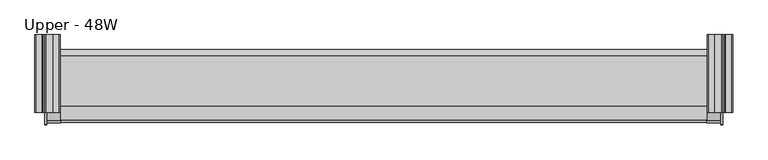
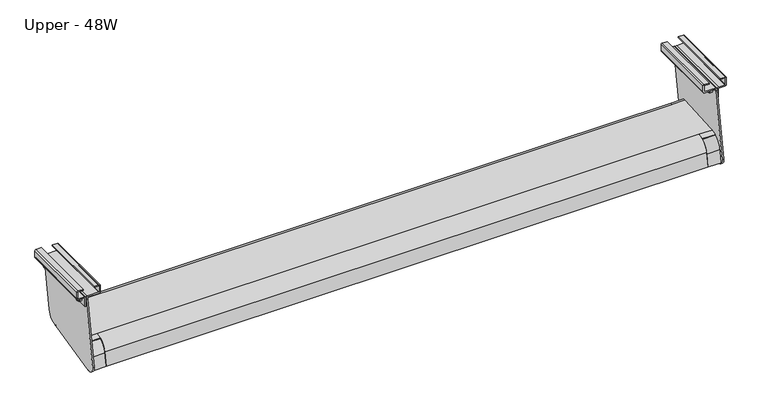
"""IFC4 building model written with IfcOpenShell, lengths in millimetres: furniture geometry, Steelcase Turnstone - Bivi - Accessories - Footshelf : Upper - 48W."""

from ifc_helpers import new_model, si_unit, point, frame, frame_2d, origin, place, context, project, spatial, polyline, circle_curve, trimmed, segment, composite_curve, outline, extrude, source, transform, mapped, element, save
from ifc_brep_helpers import plane_surface, cylinder_surface, revolved_surface, advanced_brep


def upper_48w_1558e68d(model_context):
    return source(origin(), model_context, "Body", "SolidModel", [
        advanced_brep(
        [(1193.7970434, -330.5631686, 405.2178221), (1193.7970434, -335.2717608, 378.5140687), (1193.7970434, -331.5529865, 377.9250727), (1193.7970434, -327.344341, 401.7934874), (1193.7970434, -313.6889042, 420.7007017), (1193.7970434, -315.8474061, 424.9938126), (25.4029566, -327.344341, 401.7934874), (25.4029566, -331.5529865, 377.9250727), (25.4029566, -335.2717608, 378.5140687), (25.4029566, -330.5631686, 405.2178221), (25.4029566, -315.8474061, 424.9938126), (25.4029566, -313.6889042, 420.7007017), (1219.2, -205.119935, 404.6518997), (1219.2, -209.1468112, 405.0751414), (0.0, -209.1468112, 405.0751414), (0.0, -205.119935, 404.6518997), (25.4029566, -203.2275084, 422.6571359), (1193.7970434, -203.2275084, 422.6571359), (1219.2, -203.2275084, 422.6571359), (0.0, -203.2275084, 422.6571359), (25.4029566, -213.9683536, 433.8305657), (1193.7970434, -213.9683536, 433.8305657), (0.0, -213.9683536, 433.8305657), (0.0, -305.2969526, 427.8633459), (25.4029566, -305.2969526, 427.8633459), (1193.7970434, -305.2969526, 427.8633459), (1219.2, -305.2969526, 427.8633459), (1219.2, -213.9683536, 433.8305657), (25.4029566, -302.7385546, 423.8470835), (1193.7970434, -302.7385546, 423.8470835), (0.0, -302.7385546, 423.8470835), (0.0, -215.2869038, 429.5609916), (25.4029566, -215.2869038, 429.5609916), (1193.7970434, -215.2869038, 429.5609916), (1219.2, -215.2869038, 429.5609916), (1219.2, -302.7385546, 423.8470835), (25.4029566, -207.4320707, 421.3898072), (1193.7970434, -207.4320707, 421.3898072), (0.0, -207.4320707, 421.3898072), (1219.2, -207.4320707, 421.3898072), (1219.2, -315.8474061, 424.9938126), (1219.2, -313.6889042, 420.7007017), (0.0, -313.6889042, 420.7007017), (0.0, -315.8474061, 424.9938126)],
        [
            (0, 1),
            (1, 2),
            (2, 3),
            (3, 4, circle_curve(frame((1193.7970434, -300.9940412, 397.1472186), z_axis=(-1.0, 0.0, 0.0), x_axis=(0.0, 1.0, 0.0)), 26.7567957)),
            (4, 5),
            (5, 0, circle_curve(frame((1193.7970434, -303.5056158, 400.4468455), z_axis=(1.0, 0.0, 0.0), x_axis=(0.0, 1.0, 0.0)), 27.4749592)),
            (6, 7),
            (7, 8),
            (8, 9),
            (9, 10, circle_curve(frame((25.4029566, -303.5056158, 400.4468455), z_axis=(-1.0, 0.0, 0.0), x_axis=(0.0, 1.0, 0.0)), 27.4749592)),
            (10, 11),
            (11, 6, circle_curve(frame((25.4029566, -300.9940412, 397.1472186), z_axis=(1.0, 0.0, 0.0), x_axis=(0.0, 1.0, 0.0)), 26.7567957)),
            (12, 13),
            (13, 14),
            (14, 15),
            (15, 12),
            (16, 17),
            (17, 18),
            (18, 12),
            (15, 19),
            (19, 16),
            (16, 20, circle_curve(frame((25.4029566, -213.3075275, 423.7165886), z_axis=(1.0, 0.0, 0.0), x_axis=(0.0, 1.0, 0.0)), 10.1355426)),
            (20, 21),
            (21, 17, circle_curve(frame((1193.7970434, -213.3075275, 423.7165886), z_axis=(-1.0, 0.0, 0.0), x_axis=(0.0, 1.0, 0.0)), 10.1355426)),
            (20, 22),
            (22, 23),
            (23, 24),
            (24, 25),
            (25, 26),
            (26, 27),
            (27, 21),
            (24, 10, circle_curve(frame((25.4029566, -303.5056158, 400.4468455), z_axis=(1.0, 0.0, 0.0), x_axis=(0.0, 1.0, 0.0)), 27.4749592)),
            (9, 0),
            (5, 25, circle_curve(frame((1193.7970434, -303.5056158, 400.4468455), z_axis=(-1.0, 0.0, 0.0), x_axis=(0.0, 1.0, 0.0)), 27.4749592)),
            (8, 1),
            (7, 2),
            (6, 3),
            (11, 28, circle_curve(frame((25.4029566, -300.9940412, 397.1472186), z_axis=(-1.0, 0.0, 0.0), x_axis=(0.0, 1.0, 0.0)), 26.7567957)),
            (28, 29),
            (29, 4, circle_curve(frame((1193.7970434, -300.9940412, 397.1472186), z_axis=(1.0, 0.0, 0.0), x_axis=(0.0, 1.0, 0.0)), 26.7567957)),
            (28, 30),
            (30, 31),
            (31, 32),
            (32, 33),
            (33, 34),
            (34, 35),
            (35, 29),
            (32, 36, circle_curve(frame((25.4029566, -214.8036384, 422.1645902), z_axis=(-1.0, 0.0, 0.0), x_axis=(0.0, 1.0, 0.0)), 7.4121724)),
            (36, 37),
            (37, 33, circle_curve(frame((1193.7970434, -214.8036384, 422.1645902), z_axis=(1.0, 0.0, 0.0), x_axis=(0.0, 1.0, 0.0)), 7.4121724)),
            (36, 38),
            (38, 14),
            (13, 39),
            (39, 37),
            (18, 27, circle_curve(frame((1219.2, -213.3075275, 423.7165886), z_axis=(1.0, 0.0, 0.0), x_axis=(0.0, 1.0, 0.0)), 10.1355426)),
            (26, 40, circle_curve(frame((1219.2, -303.5056158, 400.4468455), z_axis=(1.0, 0.0, 0.0), x_axis=(0.0, 1.0, 0.0)), 27.4749592)),
            (40, 41),
            (41, 35, circle_curve(frame((1219.2, -300.9940412, 397.1472186), z_axis=(-1.0, 0.0, 0.0), x_axis=(0.0, 1.0, 0.0)), 26.7567957)),
            (34, 39, circle_curve(frame((1219.2, -214.8036384, 422.1645902), z_axis=(-1.0, 0.0, 0.0), x_axis=(0.0, 1.0, 0.0)), 7.4121724)),
            (5, 40),
            (41, 4),
            (38, 31, circle_curve(frame((0.0, -214.8036384, 422.1645902), z_axis=(1.0, 0.0, 0.0), x_axis=(0.0, 1.0, 0.0)), 7.4121724)),
            (30, 42, circle_curve(frame((0.0, -300.9940412, 397.1472186), z_axis=(1.0, 0.0, 0.0), x_axis=(0.0, 1.0, 0.0)), 26.7567957)),
            (42, 43),
            (43, 23, circle_curve(frame((0.0, -303.5056158, 400.4468455), z_axis=(-1.0, 0.0, 0.0), x_axis=(0.0, 1.0, 0.0)), 27.4749592)),
            (22, 19, circle_curve(frame((0.0, -213.3075275, 423.7165886), z_axis=(-1.0, 0.0, 0.0), x_axis=(0.0, 1.0, 0.0)), 10.1355426)),
            (43, 10),
            (11, 42),
        ],
        [
            plane_surface(frame((1193.7970434, -205.119935, 404.6518997), z_axis=(1.0, 0.0, 0.0), x_axis=(0.0, 0.9945218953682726, -0.10452846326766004))),
            plane_surface(frame((25.4029566, -205.119935, 404.6518997), z_axis=(-1.0, 0.0, 0.0), x_axis=(0.0, -0.9945218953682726, 0.10452846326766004))),
            plane_surface(frame((1193.7970434, -209.1468112, 405.0751414), z_axis=(0.0, -0.10452846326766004, -0.9945218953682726), x_axis=(-1.0, 0.0, 0.0))),
            plane_surface(frame((1193.7970434, -205.119935, 404.6518997), z_axis=(0.0, 0.9945218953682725, -0.10452846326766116), x_axis=(-1.0, 0.0, 0.0))),
            cylinder_surface(frame((25.4029566, -213.3075275, 423.7165886), z_axis=(1.0, 0.0, 0.0), x_axis=(0.0, 1.0, 0.0)), 10.1355426),
            plane_surface(frame((1193.7970434, -213.9683536, 433.8305657), z_axis=(0.0, -0.06519889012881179, 0.9978722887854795), x_axis=(-1.0, 0.0, 0.0))),
            cylinder_surface(frame((25.4029566, -303.5056158, 400.4468455), z_axis=(1.0, 0.0, 0.0), x_axis=(0.0, 1.0, 0.0)), 27.4749592),
            plane_surface(frame((1193.7970434, -330.5631686, 405.2178221), z_axis=(0.0, -0.9848077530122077, 0.17364817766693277), x_axis=(-1.0, 0.0, 0.0))),
            plane_surface(frame((1193.7970434, -335.2717608, 378.5140687), z_axis=(0.0, -0.15643446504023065, -0.9876883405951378), x_axis=(-1.0, 0.0, 0.0))),
            plane_surface(frame((1193.7970434, -331.5529865, 377.9250727), z_axis=(0.0, 0.9848077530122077, -0.17364817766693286), x_axis=(-1.0, 0.0, 0.0))),
            revolved_surface(polyline([(25.4029566, -274.23724550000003, 397.1472186), (1193.7970434, -274.23724550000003, 397.1472186)]), (25.4029566, -300.9940412, 397.1472186), (-1.0, 0.0, 0.0)),
            plane_surface(frame((1193.7970434, -302.7385546, 423.8470835), z_axis=(0.0, 0.06519889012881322, -0.9978722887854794), x_axis=(-1.0, 0.0, 0.0))),
            revolved_surface(polyline([(25.4029566, -207.391466, 422.1645902), (1193.7970434, -207.391466, 422.1645902)]), (25.4029566, -214.8036384, 422.1645902), (-1.0, 0.0, 0.0)),
            plane_surface(frame((1193.7970434, -207.4320707, 421.3898072), z_axis=(0.0, -0.9945218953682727, 0.10452846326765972), x_axis=(-1.0, 0.0, 0.0))),
            plane_surface(frame((1219.2, -209.1468112, 405.0751414), z_axis=(1.0, 0.0, 0.0), x_axis=(0.0, -0.10452846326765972, -0.9945218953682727))),
            cylinder_surface(frame((1219.2, -213.3075275, 423.7165886), z_axis=(-1.0, 0.0, 0.0), x_axis=(0.0, 1.0, 0.0)), 10.1355426),
            cylinder_surface(frame((1219.2, -303.5056158, 400.4468455), z_axis=(-1.0, 0.0, 0.0), x_axis=(0.0, 1.0, 0.0)), 27.4749592),
            revolved_surface(polyline([(1219.2, -274.23724550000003, 397.1472186), (1193.7970434, -274.23724550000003, 397.1472186)]), (1219.2, -300.9940412, 397.1472186), (1.0, 0.0, 0.0)),
            revolved_surface(polyline([(1219.2, -207.391466, 422.1645902), (1193.7970434, -207.391466, 422.1645902)]), (1219.2, -214.8036384, 422.1645902), (1.0, 0.0, 0.0)),
            plane_surface(frame((1193.7970434, -313.6889042, 420.7007017), z_axis=(0.0, -0.8934305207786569, -0.44920140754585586), x_axis=(1.0, 0.0, 0.0))),
            plane_surface(frame((0.0, -205.119935, 404.6518997), z_axis=(-1.0, 0.0, 0.0), x_axis=(0.0, -0.9945218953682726, 0.10452846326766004))),
            cylinder_surface(frame((0.0, -213.3075275, 423.7165886), z_axis=(1.0, 0.0, 0.0), x_axis=(0.0, 1.0, 0.0)), 10.1355426),
            cylinder_surface(frame((0.0, -303.5056158, 400.4468455), z_axis=(1.0, 0.0, 0.0), x_axis=(0.0, 1.0, 0.0)), 27.4749592),
            revolved_surface(polyline([(0.0, -274.23724550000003, 397.1472186), (25.4029566, -274.23724550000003, 397.1472186)]), (0.0, -300.9940412, 397.1472186), (-1.0, 0.0, 0.0)),
            revolved_surface(polyline([(0.0, -207.391466, 422.1645902), (25.4029566, -207.391466, 422.1645902)]), (0.0, -214.8036384, 422.1645902), (-1.0, 0.0, 0.0)),
            plane_surface(frame((25.4029566, -315.8474061, 424.9938126), z_axis=(0.0, -0.8934305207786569, -0.44920140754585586), x_axis=(-1.0, 0.0, 0.0))),
        ],
        [
            (0, [[1, 2, 3, 4, 5, 6]]),
            (1, [[7, 8, 9, 10, 11, 12]]),
            (2, [[13, 14, 15, 16]]),
            (3, [[17, 18, 19, -16, 20, 21]]),
            (4, [[-17, 22, 23, 24]]),
            (5, [[-23, 25, 26, 27, 28, 29, 30, 31]]),
            (6, [[-28, 32, -10, 33, -6, 34]]),
            (7, [[-1, -33, -9, 35]]),
            (8, [[-2, -35, -8, 36]]),
            (9, [[-3, -36, -7, 37]]),
            (10, [[-37, -12, 38, 39, 40, -4]]),
            (11, [[-39, 41, 42, 43, 44, 45, 46, 47]]),
            (12, [[-44, 48, 49, 50]]),
            (13, [[-49, 51, 52, -14, 53, 54]]),
            (14, [[-13, -19, 55, -30, 56, 57, 58, -46, 59, -53]]),
            (15, [[-55, -18, -24, -31]]),
            (16, [[-56, -29, -34, 60]]),
            (17, [[-58, 61, -40, -47]]),
            (18, [[-59, -45, -50, -54]]),
            (19, [[-57, -60, -5, -61]]),
            (20, [[-52, 62, -42, 63, 64, 65, -26, 66, -20, -15]]),
            (21, [[-66, -25, -22, -21]]),
            (22, [[-65, 67, -32, -27]]),
            (23, [[-63, -41, -38, 68]]),
            (24, [[-62, -51, -48, -43]]),
            (25, [[-64, -68, -11, -67]]),
        ],
    ),
        advanced_brep(
        [(1224.6732124, -301.9506853, 510.0029956), (1224.6732124, -301.9506853, 515.6450881), (1224.6732124, -301.9506853, 504.3609031), (1228.0407408, -301.9506853, 515.6450881), (1228.0407408, -301.9506853, 504.3609031), (1228.0407408, -301.9506853, 513.3891575), (1228.0407408, -301.9506853, 506.6168337), (1231.0872105, -301.9506853, 513.3891575), (1231.0872105, -301.9506853, 506.6168337), (1231.0872105, -301.9506853, 510.0029956)],
        [
            (0, 1),
            (1, 2, circle_curve(frame((1224.6732124, -301.9506853, 510.0029956), z_axis=(-1.0, 0.0, 0.0), x_axis=(0.0, 0.0, 1.0)), 5.6420925)),
            (2, 0),
            (2, 1, circle_curve(frame((1224.6732124, -301.9506853, 510.0029956), z_axis=(-1.0, 0.0, 0.0), x_axis=(0.0, 0.0, 1.0)), 5.6420925)),
            (1, 3),
            (3, 4, circle_curve(frame((1228.0407408, -301.9506853, 510.0029956), z_axis=(-1.0, 0.0, 0.0), x_axis=(0.0, 0.0, 1.0)), 5.6420925)),
            (4, 2),
            (4, 3, circle_curve(frame((1228.0407408, -301.9506853, 510.0029956), z_axis=(-1.0, 0.0, 0.0), x_axis=(0.0, 0.0, 1.0)), 5.6420925)),
            (3, 5),
            (5, 6, circle_curve(frame((1228.0407408, -301.9506853, 510.0029956), z_axis=(-1.0, 0.0, 0.0), x_axis=(0.0, 0.0, 1.0)), 3.3861619)),
            (6, 4),
            (6, 5, circle_curve(frame((1228.0407408, -301.9506853, 510.0029956), z_axis=(-1.0, 0.0, 0.0), x_axis=(0.0, 0.0, 1.0)), 3.3861619)),
            (5, 7),
            (7, 8, circle_curve(frame((1231.0872105, -301.9506853, 510.0029956), z_axis=(-1.0, 0.0, 0.0), x_axis=(0.0, 0.0, 1.0)), 3.3861619)),
            (8, 6),
            (8, 7, circle_curve(frame((1231.0872105, -301.9506853, 510.0029956), z_axis=(-1.0, 0.0, 0.0), x_axis=(0.0, 0.0, 1.0)), 3.3861619)),
            (7, 9),
            (9, 8),
        ],
        [
            plane_surface(frame((1224.6732124, -301.9506853, 510.0029956), z_axis=(-1.0, 0.0, 0.0), x_axis=(0.0, 0.0, 1.0))),
            cylinder_surface(frame((1227.8802114, -301.9506853, 510.0029956), z_axis=(-1.0, 0.0, 0.0), x_axis=(0.0, 0.0, 1.0)), 5.6420925),
            plane_surface(frame((1228.0407408, -301.9506853, 510.0029956), z_axis=(1.0, 0.0, 0.0), x_axis=(0.0, 0.0, 1.0))),
            cylinder_surface(frame((1227.8802114, -301.9506853, 510.0029956), z_axis=(-1.0, 0.0, 0.0), x_axis=(0.0, 0.0, 1.0)), 3.3861619),
            plane_surface(frame((1231.0872105, -301.9506853, 510.0029956), z_axis=(1.0, 0.0, 0.0), x_axis=(0.0, 0.0, 1.0))),
        ],
        [
            (0, [[1, 2, 3]]),
            (0, [[-3, 4, -1]]),
            (1, [[-2, 5, 6, 7]]),
            (1, [[-4, -7, 8, -5]]),
            (2, [[-6, 9, 10, 11]]),
            (2, [[-8, -11, 12, -9]]),
            (3, [[-10, 13, 14, 15]]),
            (3, [[-12, -15, 16, -13]]),
            (4, [[-14, 17, 18]]),
            (4, [[-16, -18, -17]]),
        ],
    ),
        advanced_brep(
        [(1212.0372105, -301.9506853, 506.6168337), (1212.0372105, -301.9506853, 513.3891575), (1214.882967, -301.9506853, 513.3891575), (1214.882967, -301.9506853, 506.6168337), (1214.882967, -301.9506853, 515.6450881), (1214.882967, -301.9506853, 504.3609031), (1219.2, -301.9506853, 515.6450881), (1219.2, -301.9506853, 504.3609031), (1219.2, -301.9506853, 510.0029956), (1212.0372105, -301.9506853, 510.0029956)],
        [
            (0, 1, circle_curve(frame((1212.0372105, -301.9506853, 510.0029956), z_axis=(1.0, 0.0, 0.0), x_axis=(0.0, 0.0, 1.0)), 3.3861619)),
            (1, 2),
            (2, 3, circle_curve(frame((1214.882967, -301.9506853, 510.0029956), z_axis=(-1.0, 0.0, 0.0), x_axis=(0.0, 0.0, 1.0)), 3.3861619)),
            (3, 0),
            (1, 0, circle_curve(frame((1212.0372105, -301.9506853, 510.0029956), z_axis=(1.0, 0.0, 0.0), x_axis=(0.0, 0.0, 1.0)), 3.3861619)),
            (3, 2, circle_curve(frame((1214.882967, -301.9506853, 510.0029956), z_axis=(-1.0, 0.0, 0.0), x_axis=(0.0, 0.0, 1.0)), 3.3861619)),
            (2, 4),
            (4, 5, circle_curve(frame((1214.882967, -301.9506853, 510.0029956), z_axis=(-1.0, 0.0, 0.0), x_axis=(0.0, 0.0, 1.0)), 5.6420925)),
            (5, 3),
            (5, 4, circle_curve(frame((1214.882967, -301.9506853, 510.0029956), z_axis=(-1.0, 0.0, 0.0), x_axis=(0.0, 0.0, 1.0)), 5.6420925)),
            (4, 6),
            (6, 7, circle_curve(frame((1219.2, -301.9506853, 510.0029956), z_axis=(-1.0, 0.0, 0.0), x_axis=(0.0, 0.0, 1.0)), 5.6420925)),
            (7, 5),
            (7, 6, circle_curve(frame((1219.2, -301.9506853, 510.0029956), z_axis=(-1.0, 0.0, 0.0), x_axis=(0.0, 0.0, 1.0)), 5.6420925)),
            (6, 8),
            (8, 7),
            (9, 1),
            (0, 9),
        ],
        [
            cylinder_surface(frame((1227.8802114, -301.9506853, 510.0029956), z_axis=(-1.0, 0.0, 0.0), x_axis=(0.0, 0.0, 1.0)), 3.3861619),
            plane_surface(frame((1214.882967, -301.9506853, 510.0029956), z_axis=(-1.0, 0.0, 0.0), x_axis=(0.0, 0.0, 1.0))),
            cylinder_surface(frame((1227.8802114, -301.9506853, 510.0029956), z_axis=(-1.0, 0.0, 0.0), x_axis=(0.0, 0.0, 1.0)), 5.6420925),
            plane_surface(frame((1219.2, -301.9506853, 510.0029956), z_axis=(1.0, 0.0, 0.0), x_axis=(0.0, 0.0, 1.0))),
            plane_surface(frame((1212.0372105, -301.9506853, 510.0029956), z_axis=(-1.0, 0.0, 0.0), x_axis=(0.0, 0.0, 1.0))),
        ],
        [
            (0, [[1, 2, 3, 4]]),
            (0, [[5, -4, 6, -2]]),
            (1, [[-3, 7, 8, 9]]),
            (1, [[-6, -9, 10, -7]]),
            (2, [[-8, 11, 12, 13]]),
            (2, [[-10, -13, 14, -11]]),
            (3, [[-12, 15, 16]]),
            (3, [[-14, -16, -15]]),
            (4, [[17, -1, 18]]),
            (4, [[-18, -5, -17]]),
        ],
    ),
        advanced_brep(
        [(1224.6732124, -191.690625, 510.0029956), (1224.6732124, -191.690625, 515.6450881), (1224.6732124, -191.690625, 504.3609031), (1228.0407408, -191.690625, 515.6450881), (1228.0407408, -191.690625, 504.3609031), (1228.0407408, -191.690625, 513.3891575), (1228.0407408, -191.690625, 506.6168337), (1231.0872105, -191.690625, 513.3891575), (1231.0872105, -191.690625, 506.6168337), (1231.0872105, -191.690625, 510.0029956)],
        [
            (0, 1),
            (1, 2, circle_curve(frame((1224.6732124, -191.690625, 510.0029956), z_axis=(-1.0, 0.0, 0.0), x_axis=(0.0, 0.0, 1.0)), 5.6420925)),
            (2, 0),
            (2, 1, circle_curve(frame((1224.6732124, -191.690625, 510.0029956), z_axis=(-1.0, 0.0, 0.0), x_axis=(0.0, 0.0, 1.0)), 5.6420925)),
            (1, 3),
            (3, 4, circle_curve(frame((1228.0407408, -191.690625, 510.0029956), z_axis=(-1.0, 0.0, 0.0), x_axis=(0.0, 0.0, 1.0)), 5.6420925)),
            (4, 2),
            (4, 3, circle_curve(frame((1228.0407408, -191.690625, 510.0029956), z_axis=(-1.0, 0.0, 0.0), x_axis=(0.0, 0.0, 1.0)), 5.6420925)),
            (3, 5),
            (5, 6, circle_curve(frame((1228.0407408, -191.690625, 510.0029956), z_axis=(-1.0, 0.0, 0.0), x_axis=(0.0, 0.0, 1.0)), 3.3861619)),
            (6, 4),
            (6, 5, circle_curve(frame((1228.0407408, -191.690625, 510.0029956), z_axis=(-1.0, 0.0, 0.0), x_axis=(0.0, 0.0, 1.0)), 3.3861619)),
            (5, 7),
            (7, 8, circle_curve(frame((1231.0872105, -191.690625, 510.0029956), z_axis=(-1.0, 0.0, 0.0), x_axis=(0.0, 0.0, 1.0)), 3.3861619)),
            (8, 6),
            (8, 7, circle_curve(frame((1231.0872105, -191.690625, 510.0029956), z_axis=(-1.0, 0.0, 0.0), x_axis=(0.0, 0.0, 1.0)), 3.3861619)),
            (7, 9),
            (9, 8),
        ],
        [
            plane_surface(frame((1224.6732124, -191.690625, 510.0029956), z_axis=(-1.0, 0.0, 0.0), x_axis=(0.0, 0.0, 1.0))),
            cylinder_surface(frame((1227.8802114, -191.690625, 510.0029956), z_axis=(-1.0, 0.0, 0.0), x_axis=(0.0, 0.0, 1.0)), 5.6420925),
            plane_surface(frame((1228.0407408, -191.690625, 510.0029956), z_axis=(1.0, 0.0, 0.0), x_axis=(0.0, 0.0, 1.0))),
            cylinder_surface(frame((1227.8802114, -191.690625, 510.0029956), z_axis=(-1.0, 0.0, 0.0), x_axis=(0.0, 0.0, 1.0)), 3.3861619),
            plane_surface(frame((1231.0872105, -191.690625, 510.0029956), z_axis=(1.0, 0.0, 0.0), x_axis=(0.0, 0.0, 1.0))),
        ],
        [
            (0, [[1, 2, 3]]),
            (0, [[-3, 4, -1]]),
            (1, [[-2, 5, 6, 7]]),
            (1, [[-4, -7, 8, -5]]),
            (2, [[-6, 9, 10, 11]]),
            (2, [[-8, -11, 12, -9]]),
            (3, [[-10, 13, 14, 15]]),
            (3, [[-12, -15, 16, -13]]),
            (4, [[-14, 17, 18]]),
            (4, [[-16, -18, -17]]),
        ],
    ),
        advanced_brep(
        [(1212.0372105, -191.690625, 506.6168337), (1212.0372105, -191.690625, 513.3891575), (1214.882967, -191.690625, 513.3891575), (1214.882967, -191.690625, 506.6168337), (1214.882967, -191.690625, 515.6450881), (1214.882967, -191.690625, 504.3609031), (1219.2, -191.690625, 515.6450881), (1219.2, -191.690625, 504.3609031), (1219.2, -191.690625, 510.0029956), (1212.0372105, -191.690625, 510.0029956)],
        [
            (0, 1, circle_curve(frame((1212.0372105, -191.690625, 510.0029956), z_axis=(1.0, 0.0, 0.0), x_axis=(0.0, 0.0, 1.0)), 3.3861619)),
            (1, 2),
            (2, 3, circle_curve(frame((1214.882967, -191.690625, 510.0029956), z_axis=(-1.0, 0.0, 0.0), x_axis=(0.0, 0.0, 1.0)), 3.3861619)),
            (3, 0),
            (1, 0, circle_curve(frame((1212.0372105, -191.690625, 510.0029956), z_axis=(1.0, 0.0, 0.0), x_axis=(0.0, 0.0, 1.0)), 3.3861619)),
            (3, 2, circle_curve(frame((1214.882967, -191.690625, 510.0029956), z_axis=(-1.0, 0.0, 0.0), x_axis=(0.0, 0.0, 1.0)), 3.3861619)),
            (2, 4),
            (4, 5, circle_curve(frame((1214.882967, -191.690625, 510.0029956), z_axis=(-1.0, 0.0, 0.0), x_axis=(0.0, 0.0, 1.0)), 5.6420925)),
            (5, 3),
            (5, 4, circle_curve(frame((1214.882967, -191.690625, 510.0029956), z_axis=(-1.0, 0.0, 0.0), x_axis=(0.0, 0.0, 1.0)), 5.6420925)),
            (4, 6),
            (6, 7, circle_curve(frame((1219.2, -191.690625, 510.0029956), z_axis=(-1.0, 0.0, 0.0), x_axis=(0.0, 0.0, 1.0)), 5.6420925)),
            (7, 5),
            (7, 6, circle_curve(frame((1219.2, -191.690625, 510.0029956), z_axis=(-1.0, 0.0, 0.0), x_axis=(0.0, 0.0, 1.0)), 5.6420925)),
            (6, 8),
            (8, 7),
            (9, 1),
            (0, 9),
        ],
        [
            cylinder_surface(frame((1227.8802114, -191.690625, 510.0029956), z_axis=(-1.0, 0.0, 0.0), x_axis=(0.0, 0.0, 1.0)), 3.3861619),
            plane_surface(frame((1214.882967, -191.690625, 510.0029956), z_axis=(-1.0, 0.0, 0.0), x_axis=(0.0, 0.0, 1.0))),
            cylinder_surface(frame((1227.8802114, -191.690625, 510.0029956), z_axis=(-1.0, 0.0, 0.0), x_axis=(0.0, 0.0, 1.0)), 5.6420925),
            plane_surface(frame((1219.2, -191.690625, 510.0029956), z_axis=(1.0, 0.0, 0.0), x_axis=(0.0, 0.0, 1.0))),
            plane_surface(frame((1212.0372105, -191.690625, 510.0029956), z_axis=(-1.0, 0.0, 0.0), x_axis=(0.0, 0.0, 1.0))),
        ],
        [
            (0, [[1, 2, 3, 4]]),
            (0, [[5, -4, 6, -2]]),
            (1, [[-3, 7, 8, 9]]),
            (1, [[-6, -9, 10, -7]]),
            (2, [[-8, 11, 12, 13]]),
            (2, [[-10, -13, 14, -11]]),
            (3, [[-12, 15, 16]]),
            (3, [[-14, -16, -15]]),
            (4, [[17, -1, 18]]),
            (4, [[-18, -5, -17]]),
        ],
    ),
        extrude(outline(composite_curve([segment(trimmed(circle_curve(frame_2d((533.265026, 1197.2265851)), 2.523055), [point((535.788081, 1197.2265851))], [point((533.265026, 1194.7035301))], False, "CARTESIAN"), True, "CONTINUOUS"), segment(polyline([(533.265026, 1194.7035301), (521.4761406, 1194.7035301)]), True, "CONTINUOUS"), segment(trimmed(circle_curve(frame_2d((521.4761406, 1197.3914802)), 2.6879501), [point((521.4761406, 1194.7035301))], [point((518.7881906, 1197.3914802))], False, "CARTESIAN"), True, "CONTINUOUS"), segment(polyline([(518.7881906, 1197.3914802), (518.7881906, 1218.4999972)]), True, "CONTINUOUS"), segment(trimmed(circle_curve(frame_2d((518.0881878, 1218.4999972)), 0.7000028), [point((518.7881906, 1218.4999972))], [point((518.0881878, 1219.2))], True, "CARTESIAN"), True, "CONTINUOUS"), segment(polyline([(518.0881878, 1219.2), (515.0719399, 1219.2), (515.0719399, 1222.2464697), (518.7454283, 1222.2464697)]), True, "CONTINUOUS"), segment(trimmed(circle_curve(frame_2d((518.7454283, 1219.9238852)), 2.3225846), [point((518.7454283, 1222.2464697))], [point((521.0680129, 1219.9238852))], False, "CARTESIAN"), True, "CONTINUOUS"), segment(polyline([(521.0680129, 1219.9238852), (521.0680129, 1197.5692892)]), True, "CONTINUOUS"), segment(trimmed(circle_curve(frame_2d((521.6545506, 1197.5692892)), 0.5865377), [point((521.0680129, 1197.5692892))], [point((521.6545506, 1196.9827515))], True, "CARTESIAN"), True, "CONTINUOUS"), segment(polyline([(521.6545506, 1196.9827515), (532.9425114, 1196.9827515)]), True, "CONTINUOUS"), segment(trimmed(circle_curve(frame_2d((532.9425114, 1197.5482277)), 0.5654762), [point((532.9425114, 1196.9827515))], [point((533.5079876, 1197.5482277))], True, "CARTESIAN"), True, "CONTINUOUS"), segment(polyline([(533.5079876, 1197.5482277), (533.5079876, 1206.702507), (535.788081, 1206.702507), (535.788081, 1197.2265851)]), True, "CONTINUOUS")], self_intersect=False)), frame((0.0, -317.2132069, 0.0), z_axis=(0.0, 1.0, 0.0), x_axis=(0.0, 0.0, 1.0)), (0.0, 0.0, 1.0), 141.0013584),
        extrude(outline(composite_curve([segment(polyline([(501.0778087, 1224.6732124), (518.4068629, 1224.6732124)]), True, "CONTINUOUS"), segment(trimmed(circle_curve(frame_2d((518.4068629, 1225.4339697)), 0.7607573), [point((518.4068629, 1224.6732124))], [point((519.1676202, 1225.4339697))], True, "CARTESIAN"), True, "CONTINUOUS"), segment(polyline([(519.1676202, 1225.4339697), (519.1676202, 1237.2089232)]), True, "CONTINUOUS"), segment(trimmed(circle_curve(frame_2d((522.1157014, 1237.2089232)), 2.9480812), [point((519.1676202, 1237.2089232))], [point((522.1157014, 1240.1570044))], False, "CARTESIAN"), True, "CONTINUOUS"), segment(polyline([(522.1157014, 1240.1570044), (535.0550756, 1240.1570044)]), True, "CONTINUOUS"), segment(trimmed(circle_curve(frame_2d((535.0550756, 1237.5402478)), 2.6167566), [point((535.0550756, 1240.1570044))], [point((537.6718323, 1237.5402478))], False, "CARTESIAN"), True, "CONTINUOUS"), segment(polyline([(537.6718323, 1237.5402478), (537.6718323, 1228.1100653), (535.7577049, 1228.1100653), (535.7577049, 1237.5442428)]), True, "CONTINUOUS"), segment(trimmed(circle_curve(frame_2d((535.0548558, 1237.5442428)), 0.7028491), [point((535.7577049, 1237.5442428))], [point((535.0548558, 1238.2470919))], True, "CARTESIAN"), True, "CONTINUOUS"), segment(polyline([(535.0548558, 1238.2470919), (521.8638245, 1238.2470919)]), True, "CONTINUOUS"), segment(trimmed(circle_curve(frame_2d((521.8638245, 1237.4511713)), 0.7959206), [point((521.8638245, 1238.2470919))], [point((521.0679039, 1237.4511713))], True, "CARTESIAN"), True, "CONTINUOUS"), segment(polyline([(521.0679039, 1237.4511713), (521.0679039, 1225.0562852)]), True, "CONTINUOUS"), segment(trimmed(circle_curve(frame_2d((518.7731745, 1225.0562852)), 2.2947294), [point((521.0679039, 1225.0562852))], [point((518.7731745, 1222.7615559))], False, "CARTESIAN"), True, "CONTINUOUS"), segment(polyline([(518.7731745, 1222.7615559), (501.0778087, 1222.7615559), (501.0778087, 1224.6732124)]), True, "CONTINUOUS")], self_intersect=False)), frame((0.0, -317.2132069, 0.0), z_axis=(0.0, 1.0, 0.0), x_axis=(0.0, 0.0, 1.0)), (0.0, 0.0, 1.0), 141.0013584),
        extrude(outline(composite_curve([segment(polyline([(-332.8870202, 377.9585379), (-335.4134875, 378.4040222), (-331.061012, 403.0881373)]), True, "CONTINUOUS"), segment(trimmed(circle_curve(frame_2d((-302.0885172, 397.9795048)), 29.4194423), [point((-331.061012, 403.0881373))], [point((-316.4419518, 423.6598961))], False, "CARTESIAN"), True, "CONTINUOUS"), segment(polyline([(-316.4419518, 423.6598961), (-315.4242191, 421.635696)]), True, "CONTINUOUS"), segment(trimmed(circle_curve(frame_2d((-303.1510302, 399.1681269)), 25.601227), [point((-315.4242191, 421.635696))], [point((-328.3633171, 403.6137333))], True, "CARTESIAN"), True, "CONTINUOUS"), segment(polyline([(-328.3633171, 403.6137333), (-332.8870202, 377.9585379)]), True, "CONTINUOUS")], self_intersect=False)), frame((1193.7970434, 0.0, 0.0), z_axis=(1.0, 0.0, 0.0), x_axis=(0.0, 1.0, 0.0)), (0.0, 0.0, 1.0), 25.4029566),
        extrude(outline(polyline([(-303.3054343, 421.3984403), (-303.3054343, 423.8059931), (-214.6009362, 429.6985325), (-214.6009362, 427.2909798), (-303.3054343, 421.3984403)])), frame((1193.7970434, 0.0, 0.0), z_axis=(1.0, 0.0, 0.0), x_axis=(0.0, 1.0, 0.0)), (0.0, 0.0, 1.0), 25.4029566),
        extrude(outline(composite_curve([segment(polyline([(-214.2035703, 427.3173763), (-216.6878663, 400.722597), (-325.7409976, 376.5767837), (-332.8285151, 378.2903368), (-328.3633171, 403.6137333), (-321.5882945, 402.7837592)]), True, "CONTINUOUS"), segment(trimmed(circle_curve(frame_2d((-319.9743829, 415.9580098)), 13.2727386), [point((-321.5882945, 402.7837592))], [point((-309.2742208, 408.1048499))], True, "CARTESIAN"), True, "CONTINUOUS"), segment(trimmed(circle_curve(frame_2d((-337.3047231, 428.6772501)), 34.7697097), [point((-309.2742208, 408.1048499))], [point((-303.2021583, 421.8987706))], True, "CARTESIAN"), True, "CONTINUOUS"), segment(polyline([(-303.2021583, 421.8987706), (-303.2021583, 423.8127456), (-214.3542538, 429.621972), (-214.2035703, 427.3173763)]), True, "CONTINUOUS")], self_intersect=False)), frame((1215.3910742, 0.0, 0.0), z_axis=(1.0, 0.0, 0.0), x_axis=(0.0, 1.0, 0.0)), (0.0, 0.0, 1.0), 3.8089258),
        extrude(outline(composite_curve([segment(polyline([(-339.6051595, 388.0962158), (-317.2229753, 515.0719399), (-176.2212331, 515.0719399), (-193.1137238, 419.4135346)]), True, "CONTINUOUS"), segment(trimmed(circle_curve(frame_2d((-217.5321339, 423.7256258)), 24.7962272), [point((-193.1137238, 419.4135346))], [point((-214.3362657, 399.1362113))], False, "CARTESIAN"), True, "CONTINUOUS"), segment(polyline([(-214.3362657, 399.1362113), (-215.7114724, 400.9390809), (-216.6878663, 400.722597), (-216.1951638, 398.5045638), (-325.1763024, 374.3327471), (-325.6691503, 376.558665), (-326.5433702, 376.7700256), (-326.7852802, 375.407307)]), True, "CONTINUOUS"), segment(trimmed(circle_curve(frame_2d((-329.210562, 376.5665039)), 2.6880717), [point((-326.7852802, 375.407307))], [point((-329.677198, 373.9192449))], False, "CARTESIAN"), True, "CONTINUOUS"), segment(trimmed(circle_curve(frame_2d((-327.5526933, 385.9717111)), 12.2382786), [point((-329.677198, 373.9192449))], [point((-339.6051595, 388.0962158))], False, "CARTESIAN"), True, "CONTINUOUS")], self_intersect=False)), frame((1219.2, 0.0, 0.0), z_axis=(1.0, 0.0, 0.0), x_axis=(0.0, 1.0, 0.0)), (0.0, 0.0, 1.0), 3.0464697),
        advanced_brep(
        [(-5.4732124, -301.9506853, 504.3609031), (-5.4732124, -301.9506853, 515.6450881), (-5.4732124, -301.9506853, 510.0029956), (-8.8407408, -301.9506853, 504.3609031), (-8.8407408, -301.9506853, 515.6450881), (-8.8407408, -301.9506853, 506.6168337), (-8.8407408, -301.9506853, 513.3891575), (-11.8872105, -301.9506853, 506.6168337), (-11.8872105, -301.9506853, 513.3891575), (-11.8872105, -301.9506853, 510.0029956)],
        [
            (0, 1, circle_curve(frame((-5.4732124, -301.9506853, 510.0029956), z_axis=(1.0, 0.0, 0.0), x_axis=(0.0, 0.0, 1.0)), 5.6420925)),
            (1, 2),
            (2, 0),
            (1, 0, circle_curve(frame((-5.4732124, -301.9506853, 510.0029956), z_axis=(1.0, 0.0, 0.0), x_axis=(0.0, 0.0, 1.0)), 5.6420925)),
            (3, 4, circle_curve(frame((-8.8407408, -301.9506853, 510.0029956), z_axis=(1.0, 0.0, 0.0), x_axis=(0.0, 0.0, 1.0)), 5.6420925)),
            (4, 1),
            (0, 3),
            (4, 3, circle_curve(frame((-8.8407408, -301.9506853, 510.0029956), z_axis=(1.0, 0.0, 0.0), x_axis=(0.0, 0.0, 1.0)), 5.6420925)),
            (5, 6, circle_curve(frame((-8.8407408, -301.9506853, 510.0029956), z_axis=(1.0, 0.0, 0.0), x_axis=(0.0, 0.0, 1.0)), 3.3861619)),
            (6, 4),
            (3, 5),
            (6, 5, circle_curve(frame((-8.8407408, -301.9506853, 510.0029956), z_axis=(1.0, 0.0, 0.0), x_axis=(0.0, 0.0, 1.0)), 3.3861619)),
            (7, 8, circle_curve(frame((-11.8872105, -301.9506853, 510.0029956), z_axis=(1.0, 0.0, 0.0), x_axis=(0.0, 0.0, 1.0)), 3.3861619)),
            (8, 6),
            (5, 7),
            (8, 7, circle_curve(frame((-11.8872105, -301.9506853, 510.0029956), z_axis=(1.0, 0.0, 0.0), x_axis=(0.0, 0.0, 1.0)), 3.3861619)),
            (9, 8),
            (7, 9),
        ],
        [
            plane_surface(frame((-5.4732124, -301.9506853, 510.0029956), z_axis=(1.0, 0.0, 0.0), x_axis=(0.0, 0.0, 1.0))),
            cylinder_surface(frame((-8.6802114, -301.9506853, 510.0029956), z_axis=(-1.0, 0.0, 0.0), x_axis=(0.0, 0.0, 1.0)), 5.6420925),
            plane_surface(frame((-8.8407408, -301.9506853, 510.0029956), z_axis=(-1.0, 0.0, 0.0), x_axis=(0.0, 0.0, 1.0))),
            cylinder_surface(frame((-8.6802114, -301.9506853, 510.0029956), z_axis=(-1.0, 0.0, 0.0), x_axis=(0.0, 0.0, 1.0)), 3.3861619),
            plane_surface(frame((-11.8872105, -301.9506853, 510.0029956), z_axis=(-1.0, 0.0, 0.0), x_axis=(0.0, 0.0, 1.0))),
        ],
        [
            (0, [[1, 2, 3]]),
            (0, [[4, -3, -2]]),
            (1, [[5, 6, -1, 7]]),
            (1, [[8, -7, -4, -6]]),
            (2, [[9, 10, -5, 11]]),
            (2, [[12, -11, -8, -10]]),
            (3, [[13, 14, -9, 15]]),
            (3, [[16, -15, -12, -14]]),
            (4, [[17, -13, 18]]),
            (4, [[-18, -16, -17]]),
        ],
    ),
        advanced_brep(
        [(4.317033, -301.9506853, 506.6168337), (4.317033, -301.9506853, 513.3891575), (7.1627895, -301.9506853, 513.3891575), (7.1627895, -301.9506853, 506.6168337), (4.317033, -301.9506853, 504.3609031), (4.317033, -301.9506853, 515.6450881), (0.0, -301.9506853, 504.3609031), (0.0, -301.9506853, 515.6450881), (0.0, -301.9506853, 510.0029956), (7.1627895, -301.9506853, 510.0029956)],
        [
            (0, 1, circle_curve(frame((4.317033, -301.9506853, 510.0029956), z_axis=(1.0, 0.0, 0.0), x_axis=(0.0, 0.0, 1.0)), 3.3861619)),
            (1, 2),
            (2, 3, circle_curve(frame((7.1627895, -301.9506853, 510.0029956), z_axis=(-1.0, 0.0, 0.0), x_axis=(0.0, 0.0, 1.0)), 3.3861619)),
            (3, 0),
            (1, 0, circle_curve(frame((4.317033, -301.9506853, 510.0029956), z_axis=(1.0, 0.0, 0.0), x_axis=(0.0, 0.0, 1.0)), 3.3861619)),
            (3, 2, circle_curve(frame((7.1627895, -301.9506853, 510.0029956), z_axis=(-1.0, 0.0, 0.0), x_axis=(0.0, 0.0, 1.0)), 3.3861619)),
            (4, 5, circle_curve(frame((4.317033, -301.9506853, 510.0029956), z_axis=(1.0, 0.0, 0.0), x_axis=(0.0, 0.0, 1.0)), 5.6420925)),
            (5, 1),
            (0, 4),
            (5, 4, circle_curve(frame((4.317033, -301.9506853, 510.0029956), z_axis=(1.0, 0.0, 0.0), x_axis=(0.0, 0.0, 1.0)), 5.6420925)),
            (6, 7, circle_curve(frame((0.0, -301.9506853, 510.0029956), z_axis=(1.0, 0.0, 0.0), x_axis=(0.0, 0.0, 1.0)), 5.6420925)),
            (7, 5),
            (4, 6),
            (7, 6, circle_curve(frame((0.0, -301.9506853, 510.0029956), z_axis=(1.0, 0.0, 0.0), x_axis=(0.0, 0.0, 1.0)), 5.6420925)),
            (8, 7),
            (6, 8),
            (2, 9),
            (9, 3),
        ],
        [
            cylinder_surface(frame((-8.6802114, -301.9506853, 510.0029956), z_axis=(-1.0, 0.0, 0.0), x_axis=(0.0, 0.0, 1.0)), 3.3861619),
            plane_surface(frame((4.317033, -301.9506853, 510.0029956), z_axis=(1.0, 0.0, 0.0), x_axis=(0.0, 0.0, 1.0))),
            cylinder_surface(frame((-8.6802114, -301.9506853, 510.0029956), z_axis=(-1.0, 0.0, 0.0), x_axis=(0.0, 0.0, 1.0)), 5.6420925),
            plane_surface(frame((0.0, -301.9506853, 510.0029956), z_axis=(-1.0, 0.0, 0.0), x_axis=(0.0, 0.0, 1.0))),
            plane_surface(frame((7.1627895, -301.9506853, 510.0029956), z_axis=(1.0, 0.0, 0.0), x_axis=(0.0, 0.0, 1.0))),
        ],
        [
            (0, [[1, 2, 3, 4]]),
            (0, [[5, -4, 6, -2]]),
            (1, [[7, 8, -1, 9]]),
            (1, [[10, -9, -5, -8]]),
            (2, [[11, 12, -7, 13]]),
            (2, [[14, -13, -10, -12]]),
            (3, [[15, -11, 16]]),
            (3, [[-16, -14, -15]]),
            (4, [[-3, 17, 18]]),
            (4, [[-6, -18, -17]]),
        ],
    ),
        advanced_brep(
        [(-5.4732124, -191.690625, 504.3609031), (-5.4732124, -191.690625, 515.6450881), (-5.4732124, -191.690625, 510.0029956), (-8.8407408, -191.690625, 504.3609031), (-8.8407408, -191.690625, 515.6450881), (-8.8407408, -191.690625, 506.6168337), (-8.8407408, -191.690625, 513.3891575), (-11.8872105, -191.690625, 506.6168337), (-11.8872105, -191.690625, 513.3891575), (-11.8872105, -191.690625, 510.0029956)],
        [
            (0, 1, circle_curve(frame((-5.4732124, -191.690625, 510.0029956), z_axis=(1.0, 0.0, 0.0), x_axis=(0.0, 0.0, 1.0)), 5.6420925)),
            (1, 2),
            (2, 0),
            (1, 0, circle_curve(frame((-5.4732124, -191.690625, 510.0029956), z_axis=(1.0, 0.0, 0.0), x_axis=(0.0, 0.0, 1.0)), 5.6420925)),
            (3, 4, circle_curve(frame((-8.8407408, -191.690625, 510.0029956), z_axis=(1.0, 0.0, 0.0), x_axis=(0.0, 0.0, 1.0)), 5.6420925)),
            (4, 1),
            (0, 3),
            (4, 3, circle_curve(frame((-8.8407408, -191.690625, 510.0029956), z_axis=(1.0, 0.0, 0.0), x_axis=(0.0, 0.0, 1.0)), 5.6420925)),
            (5, 6, circle_curve(frame((-8.8407408, -191.690625, 510.0029956), z_axis=(1.0, 0.0, 0.0), x_axis=(0.0, 0.0, 1.0)), 3.3861619)),
            (6, 4),
            (3, 5),
            (6, 5, circle_curve(frame((-8.8407408, -191.690625, 510.0029956), z_axis=(1.0, 0.0, 0.0), x_axis=(0.0, 0.0, 1.0)), 3.3861619)),
            (7, 8, circle_curve(frame((-11.8872105, -191.690625, 510.0029956), z_axis=(1.0, 0.0, 0.0), x_axis=(0.0, 0.0, 1.0)), 3.3861619)),
            (8, 6),
            (5, 7),
            (8, 7, circle_curve(frame((-11.8872105, -191.690625, 510.0029956), z_axis=(1.0, 0.0, 0.0), x_axis=(0.0, 0.0, 1.0)), 3.3861619)),
            (9, 8),
            (7, 9),
        ],
        [
            plane_surface(frame((-5.4732124, -191.690625, 510.0029956), z_axis=(1.0, 0.0, 0.0), x_axis=(0.0, 0.0, 1.0))),
            cylinder_surface(frame((-8.6802114, -191.690625, 510.0029956), z_axis=(-1.0, 0.0, 0.0), x_axis=(0.0, 0.0, 1.0)), 5.6420925),
            plane_surface(frame((-8.8407408, -191.690625, 510.0029956), z_axis=(-1.0, 0.0, 0.0), x_axis=(0.0, 0.0, 1.0))),
            cylinder_surface(frame((-8.6802114, -191.690625, 510.0029956), z_axis=(-1.0, 0.0, 0.0), x_axis=(0.0, 0.0, 1.0)), 3.3861619),
            plane_surface(frame((-11.8872105, -191.690625, 510.0029956), z_axis=(-1.0, 0.0, 0.0), x_axis=(0.0, 0.0, 1.0))),
        ],
        [
            (0, [[1, 2, 3]]),
            (0, [[4, -3, -2]]),
            (1, [[5, 6, -1, 7]]),
            (1, [[8, -7, -4, -6]]),
            (2, [[9, 10, -5, 11]]),
            (2, [[12, -11, -8, -10]]),
            (3, [[13, 14, -9, 15]]),
            (3, [[16, -15, -12, -14]]),
            (4, [[17, -13, 18]]),
            (4, [[-18, -16, -17]]),
        ],
    ),
        advanced_brep(
        [(4.317033, -191.690625, 506.6168337), (4.317033, -191.690625, 513.3891575), (7.1627895, -191.690625, 513.3891575), (7.1627895, -191.690625, 506.6168337), (4.317033, -191.690625, 504.3609031), (4.317033, -191.690625, 515.6450881), (0.0, -191.690625, 504.3609031), (0.0, -191.690625, 515.6450881), (0.0, -191.690625, 510.0029956), (7.1627895, -191.690625, 510.0029956)],
        [
            (0, 1, circle_curve(frame((4.317033, -191.690625, 510.0029956), z_axis=(1.0, 0.0, 0.0), x_axis=(0.0, 0.0, 1.0)), 3.3861619)),
            (1, 2),
            (2, 3, circle_curve(frame((7.1627895, -191.690625, 510.0029956), z_axis=(-1.0, 0.0, 0.0), x_axis=(0.0, 0.0, 1.0)), 3.3861619)),
            (3, 0),
            (1, 0, circle_curve(frame((4.317033, -191.690625, 510.0029956), z_axis=(1.0, 0.0, 0.0), x_axis=(0.0, 0.0, 1.0)), 3.3861619)),
            (3, 2, circle_curve(frame((7.1627895, -191.690625, 510.0029956), z_axis=(-1.0, 0.0, 0.0), x_axis=(0.0, 0.0, 1.0)), 3.3861619)),
            (4, 5, circle_curve(frame((4.317033, -191.690625, 510.0029956), z_axis=(1.0, 0.0, 0.0), x_axis=(0.0, 0.0, 1.0)), 5.6420925)),
            (5, 1),
            (0, 4),
            (5, 4, circle_curve(frame((4.317033, -191.690625, 510.0029956), z_axis=(1.0, 0.0, 0.0), x_axis=(0.0, 0.0, 1.0)), 5.6420925)),
            (6, 7, circle_curve(frame((0.0, -191.690625, 510.0029956), z_axis=(1.0, 0.0, 0.0), x_axis=(0.0, 0.0, 1.0)), 5.6420925)),
            (7, 5),
            (4, 6),
            (7, 6, circle_curve(frame((0.0, -191.690625, 510.0029956), z_axis=(1.0, 0.0, 0.0), x_axis=(0.0, 0.0, 1.0)), 5.6420925)),
            (8, 7),
            (6, 8),
            (2, 9),
            (9, 3),
        ],
        [
            cylinder_surface(frame((-8.6802114, -191.690625, 510.0029956), z_axis=(-1.0, 0.0, 0.0), x_axis=(0.0, 0.0, 1.0)), 3.3861619),
            plane_surface(frame((4.317033, -191.690625, 510.0029956), z_axis=(1.0, 0.0, 0.0), x_axis=(0.0, 0.0, 1.0))),
            cylinder_surface(frame((-8.6802114, -191.690625, 510.0029956), z_axis=(-1.0, 0.0, 0.0), x_axis=(0.0, 0.0, 1.0)), 5.6420925),
            plane_surface(frame((0.0, -191.690625, 510.0029956), z_axis=(-1.0, 0.0, 0.0), x_axis=(0.0, 0.0, 1.0))),
            plane_surface(frame((7.1627895, -191.690625, 510.0029956), z_axis=(1.0, 0.0, 0.0), x_axis=(0.0, 0.0, 1.0))),
        ],
        [
            (0, [[1, 2, 3, 4]]),
            (0, [[5, -4, 6, -2]]),
            (1, [[7, 8, -1, 9]]),
            (1, [[10, -9, -5, -8]]),
            (2, [[11, 12, -7, 13]]),
            (2, [[14, -13, -10, -12]]),
            (3, [[15, -11, 16]]),
            (3, [[-16, -14, -15]]),
            (4, [[-3, 17, 18]]),
            (4, [[-6, -18, -17]]),
        ],
    ),
        extrude(outline(composite_curve([segment(polyline([(535.788081, 21.9734149), (535.788081, 12.497493), (533.5079876, 12.497493), (533.5079876, 21.6517723)]), True, "CONTINUOUS"), segment(trimmed(circle_curve(frame_2d((532.9425114, 21.6517723)), 0.5654762), [point((533.5079876, 21.6517723))], [point((532.9425114, 22.2172485))], True, "CARTESIAN"), True, "CONTINUOUS"), segment(polyline([(532.9425114, 22.2172485), (521.6545506, 22.2172485)]), True, "CONTINUOUS"), segment(trimmed(circle_curve(frame_2d((521.6545506, 21.6307108)), 0.5865377), [point((521.6545506, 22.2172485))], [point((521.0680129, 21.6307108))], True, "CARTESIAN"), True, "CONTINUOUS"), segment(polyline([(521.0680129, 21.6307108), (521.0680129, -0.7238852)]), True, "CONTINUOUS"), segment(trimmed(circle_curve(frame_2d((518.7454283, -0.7238852)), 2.3225846), [point((521.0680129, -0.7238852))], [point((518.7454283, -3.0464697))], False, "CARTESIAN"), True, "CONTINUOUS"), segment(polyline([(518.7454283, -3.0464697), (515.0719399, -3.0464697), (515.0719399, 0.0), (518.0881878, 0.0)]), True, "CONTINUOUS"), segment(trimmed(circle_curve(frame_2d((518.0881878, 0.7000028)), 0.7000028), [point((518.0881878, 0.0))], [point((518.7881906, 0.7000028))], True, "CARTESIAN"), True, "CONTINUOUS"), segment(polyline([(518.7881906, 0.7000028), (518.7881906, 21.8085198)]), True, "CONTINUOUS"), segment(trimmed(circle_curve(frame_2d((521.4761406, 21.8085198)), 2.6879501), [point((518.7881906, 21.8085198))], [point((521.4761406, 24.4964699))], False, "CARTESIAN"), True, "CONTINUOUS"), segment(polyline([(521.4761406, 24.4964699), (533.265026, 24.4964699)]), True, "CONTINUOUS"), segment(trimmed(circle_curve(frame_2d((533.265026, 21.9734149)), 2.523055), [point((533.265026, 24.4964699))], [point((535.788081, 21.9734149))], False, "CARTESIAN"), True, "CONTINUOUS")], self_intersect=False)), frame((0.0, -317.2132069, 0.0), z_axis=(0.0, 1.0, 0.0), x_axis=(0.0, 0.0, 1.0)), (0.0, 0.0, 1.0), 141.0013584),
        extrude(outline(composite_curve([segment(polyline([(501.0778087, -5.4732124), (501.0778087, -3.5615559), (518.7731745, -3.5615559)]), True, "CONTINUOUS"), segment(trimmed(circle_curve(frame_2d((518.7731745, -5.8562852)), 2.2947294), [point((518.7731745, -3.5615559))], [point((521.0679039, -5.8562852))], False, "CARTESIAN"), True, "CONTINUOUS"), segment(polyline([(521.0679039, -5.8562852), (521.0679039, -18.2511713)]), True, "CONTINUOUS"), segment(trimmed(circle_curve(frame_2d((521.8638245, -18.2511713)), 0.7959206), [point((521.0679039, -18.2511713))], [point((521.8638245, -19.0470919))], True, "CARTESIAN"), True, "CONTINUOUS"), segment(polyline([(521.8638245, -19.0470919), (535.0548558, -19.0470919)]), True, "CONTINUOUS"), segment(trimmed(circle_curve(frame_2d((535.0548558, -18.3442428)), 0.7028491), [point((535.0548558, -19.0470919))], [point((535.7577049, -18.3442428))], True, "CARTESIAN"), True, "CONTINUOUS"), segment(polyline([(535.7577049, -18.3442428), (535.7577049, -8.9100653), (537.6718323, -8.9100653), (537.6718323, -18.3402478)]), True, "CONTINUOUS"), segment(trimmed(circle_curve(frame_2d((535.0550756, -18.3402478)), 2.6167566), [point((537.6718323, -18.3402478))], [point((535.0550756, -20.9570044))], False, "CARTESIAN"), True, "CONTINUOUS"), segment(polyline([(535.0550756, -20.9570044), (522.1157014, -20.9570044)]), True, "CONTINUOUS"), segment(trimmed(circle_curve(frame_2d((522.1157014, -18.0089232)), 2.9480812), [point((522.1157014, -20.9570044))], [point((519.1676202, -18.0089232))], False, "CARTESIAN"), True, "CONTINUOUS"), segment(polyline([(519.1676202, -18.0089232), (519.1676202, -6.2339697)]), True, "CONTINUOUS"), segment(trimmed(circle_curve(frame_2d((518.4068629, -6.2339697)), 0.7607573), [point((519.1676202, -6.2339697))], [point((518.4068629, -5.4732124))], True, "CARTESIAN"), True, "CONTINUOUS"), segment(polyline([(518.4068629, -5.4732124), (501.0778087, -5.4732124)]), True, "CONTINUOUS")], self_intersect=False)), frame((0.0, -317.2132069, 0.0), z_axis=(0.0, 1.0, 0.0), x_axis=(0.0, 0.0, 1.0)), (0.0, 0.0, 1.0), 141.0013584),
        extrude(outline(composite_curve([segment(polyline([(-332.8870202, 377.9585379), (-335.4134875, 378.4040222), (-331.061012, 403.0881373)]), True, "CONTINUOUS"), segment(trimmed(circle_curve(frame_2d((-302.0885172, 397.9795048)), 29.4194423), [point((-331.061012, 403.0881373))], [point((-316.4419518, 423.6598961))], False, "CARTESIAN"), True, "CONTINUOUS"), segment(polyline([(-316.4419518, 423.6598961), (-315.4242191, 421.635696)]), True, "CONTINUOUS"), segment(trimmed(circle_curve(frame_2d((-303.1510302, 399.1681269)), 25.601227), [point((-315.4242191, 421.635696))], [point((-328.3633171, 403.6137333))], True, "CARTESIAN"), True, "CONTINUOUS"), segment(polyline([(-328.3633171, 403.6137333), (-332.8870202, 377.9585379)]), True, "CONTINUOUS")], self_intersect=False)), frame((0.0, 0.0, 0.0), z_axis=(1.0, 0.0, 0.0), x_axis=(0.0, 1.0, 0.0)), (0.0, 0.0, 1.0), 25.4029566),
        extrude(outline(polyline([(-303.3054343, 421.3984403), (-303.3054343, 423.8059931), (-214.6009362, 429.6985325), (-214.6009362, 427.2909798), (-303.3054343, 421.3984403)])), frame((0.0, 0.0, 0.0), z_axis=(1.0, 0.0, 0.0), x_axis=(0.0, 1.0, 0.0)), (0.0, 0.0, 1.0), 25.4029566),
        extrude(outline(composite_curve([segment(polyline([(-214.2035703, 427.3173763), (-216.6878663, 400.722597), (-325.7409976, 376.5767837), (-332.8285151, 378.2903368), (-328.3633171, 403.6137333), (-321.5882945, 402.7837592)]), True, "CONTINUOUS"), segment(trimmed(circle_curve(frame_2d((-319.9743829, 415.9580098)), 13.2727386), [point((-321.5882945, 402.7837592))], [point((-309.2742208, 408.1048499))], True, "CARTESIAN"), True, "CONTINUOUS"), segment(trimmed(circle_curve(frame_2d((-337.3047231, 428.6772501)), 34.7697097), [point((-309.2742208, 408.1048499))], [point((-303.2021583, 421.8987706))], True, "CARTESIAN"), True, "CONTINUOUS"), segment(polyline([(-303.2021583, 421.8987706), (-303.2021583, 423.8127456), (-214.3542538, 429.621972), (-214.2035703, 427.3173763)]), True, "CONTINUOUS")], self_intersect=False)), frame((0.0, 0.0, 0.0), z_axis=(1.0, 0.0, 0.0), x_axis=(0.0, 1.0, 0.0)), (0.0, 0.0, 1.0), 3.8089258),
        extrude(outline(composite_curve([segment(polyline([(-339.6051595, 388.0962158), (-317.2229753, 515.0719399), (-176.2212331, 515.0719399), (-193.1137238, 419.4135346)]), True, "CONTINUOUS"), segment(trimmed(circle_curve(frame_2d((-217.5321339, 423.7256258)), 24.7962272), [point((-193.1137238, 419.4135346))], [point((-214.3362657, 399.1362113))], False, "CARTESIAN"), True, "CONTINUOUS"), segment(polyline([(-214.3362657, 399.1362113), (-215.7114724, 400.9390809), (-216.6878663, 400.722597), (-216.1951638, 398.5045638), (-325.1763024, 374.3327471), (-325.6691503, 376.558665), (-326.5433702, 376.7700256), (-326.7852802, 375.407307)]), True, "CONTINUOUS"), segment(trimmed(circle_curve(frame_2d((-329.210562, 376.5665039)), 2.6880717), [point((-326.7852802, 375.407307))], [point((-329.677198, 373.9192449))], False, "CARTESIAN"), True, "CONTINUOUS"), segment(trimmed(circle_curve(frame_2d((-327.5526933, 385.9717111)), 12.2382786), [point((-329.677198, 373.9192449))], [point((-339.6051595, 388.0962158))], False, "CARTESIAN"), True, "CONTINUOUS")], self_intersect=False)), frame((-3.0464697, 0.0, 0.0), z_axis=(1.0, 0.0, 0.0), x_axis=(0.0, 1.0, 0.0)), (0.0, 0.0, 1.0), 3.0464697),
    ])


if __name__ == "__main__":
    model = new_model("IFC4")
    model_context = context("Model", 3, world=origin())
    ifc_project = project(units=[si_unit("LENGTHUNIT", "METRE", prefix="MILLI")], contexts=[model_context])
    site = spatial("IfcSite", under=ifc_project)
    building = spatial("IfcBuilding", under=site)
    placement = place(None, origin())
    upper_48w_shape = upper_48w_1558e68d(model_context)
    element("IfcFurniture", 1, ObjectType="Steelcase Turnstone - Bivi - Accessories - Footshelf : Upper - 48W", at=placement, inside=building, context=model_context, shape_type="MappedRepresentation", body=[
        mapped(upper_48w_shape, transform((0.0, 0.0, 0.0), x_axis=(1.0, 0.0, 0.0), y_axis=(0.0, 1.0, 0.0), z_axis=(0.0, 0.0, 1.0))),
    ])
    save(model, "model.ifc")
